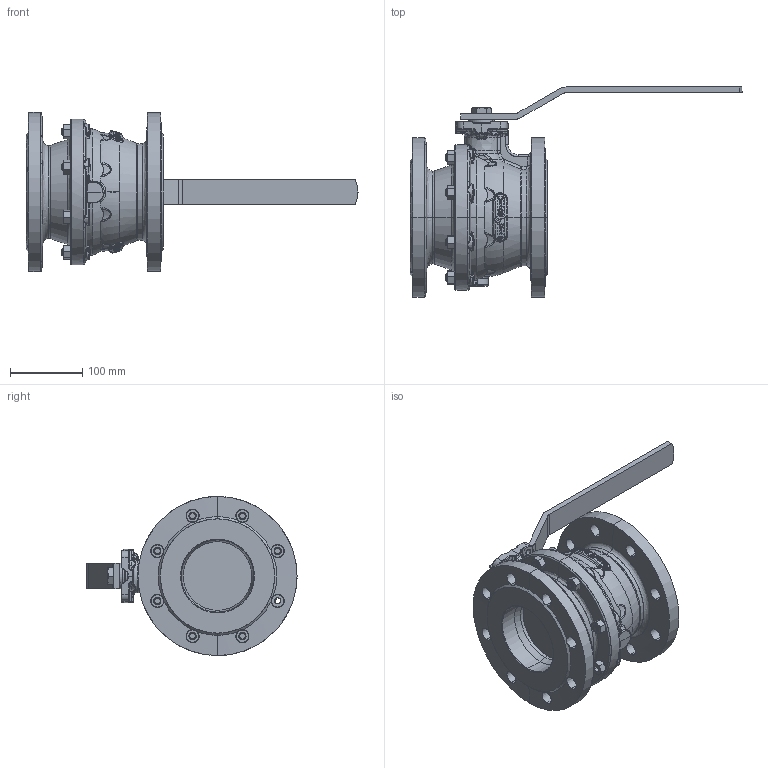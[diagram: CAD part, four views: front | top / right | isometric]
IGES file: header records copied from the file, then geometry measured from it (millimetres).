
Start section: SolidWorks IGES file using analytic representation for surfaces
Global section: file name: C:\Documents and Settings\Luca.Saino\Desktop\B2 IGES+DWG\IGES\B2.100I100L16CN.IGS; native system: SolidWorks 2008; preprocessor: SolidWorks 2008; author: Luca.Saino; date: 080617.105004; units: millimetre
Bounding box: 459 x 290.5 x 220 mm (x, y, z)
Surface area: 346950.3 mm2 (no closed solid volume)
Topology: 0 solids, 0 shells, 1501 faces, 21501 edges, 21471 vertices
Faces by surface type: bspline 902, revolution 599
